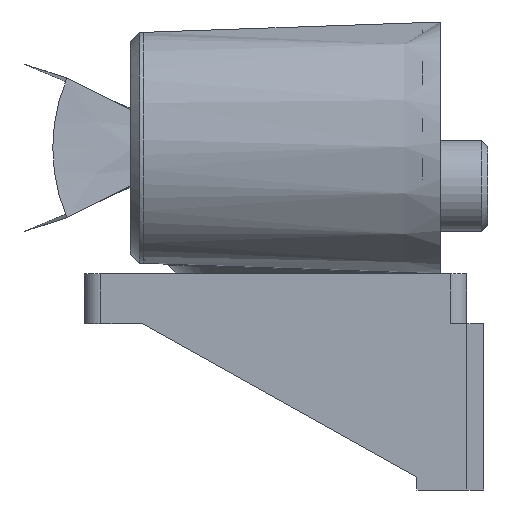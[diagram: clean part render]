
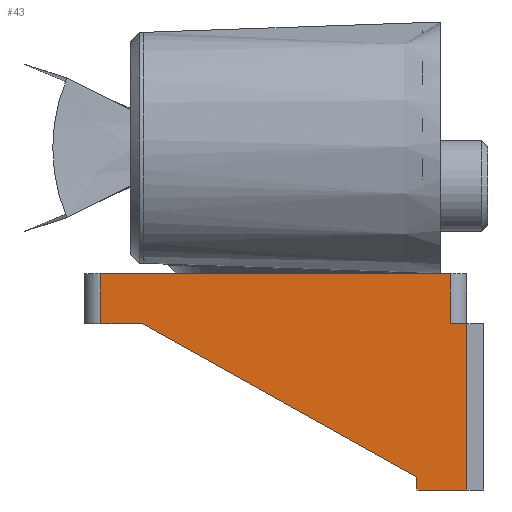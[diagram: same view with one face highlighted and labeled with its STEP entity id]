
A CAD part, left-side view. The second image highlights one B-rep face of the part: STEP entity #43.
In plain terms, the highlighted planar face has unit normal (-1, 0, 0).
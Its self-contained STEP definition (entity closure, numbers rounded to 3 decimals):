
#43 = ADVANCED_FACE('',(#44),#58,.F.);
#44 = FACE_BOUND('',#45,.F.);
#45 = EDGE_LOOP('',(#46,#81,#109,#137,#165,#193,#221,#249,#277));
#46 = ORIENTED_EDGE('',*,*,#47,.F.);
#47 = EDGE_CURVE('',#48,#50,#52,.T.);
#48 = VERTEX_POINT('',#49);
#49 = CARTESIAN_POINT('',(-32.,0.,10.));
#50 = VERTEX_POINT('',#51);
#51 = CARTESIAN_POINT('',(-32.,2.,10.));
#52 = SURFACE_CURVE('',#53,(#57,#69),.PCURVE_S1.);
#53 = LINE('',#54,#55);
#54 = CARTESIAN_POINT('',(-32.,0.,10.));
#55 = VECTOR('',#56,1.);
#56 = DIRECTION('',(0.,1.,0.));
#57 = PCURVE('',#58,#63);
#58 = PLANE('',#59);
#59 = AXIS2_PLACEMENT_3D('',#60,#61,#62);
#60 = CARTESIAN_POINT('',(-32.,0.,-10.));
#61 = DIRECTION('',(1.,0.,0.));
#62 = DIRECTION('',(0.,0.,1.));
#63 = DEFINITIONAL_REPRESENTATION('',(#64),#68);
#64 = LINE('',#65,#66);
#65 = CARTESIAN_POINT('',(20.,0.));
#66 = VECTOR('',#67,1.);
#67 = DIRECTION('',(0.,-1.));
#68 = ( GEOMETRIC_REPRESENTATION_CONTEXT(2) 
PARAMETRIC_REPRESENTATION_CONTEXT() REPRESENTATION_CONTEXT('2D SPACE',''
  ) );
#69 = PCURVE('',#70,#75);
#70 = PLANE('',#71);
#71 = AXIS2_PLACEMENT_3D('',#72,#73,#74);
#72 = CARTESIAN_POINT('',(-32.,0.,10.));
#73 = DIRECTION('',(0.,0.,1.));
#74 = DIRECTION('',(1.,0.,0.));
#75 = DEFINITIONAL_REPRESENTATION('',(#76),#80);
#76 = LINE('',#77,#78);
#77 = CARTESIAN_POINT('',(0.,0.));
#78 = VECTOR('',#79,1.);
#79 = DIRECTION('',(0.,1.));
#80 = ( GEOMETRIC_REPRESENTATION_CONTEXT(2) 
PARAMETRIC_REPRESENTATION_CONTEXT() REPRESENTATION_CONTEXT('2D SPACE',''
  ) );
#81 = ORIENTED_EDGE('',*,*,#82,.F.);
#82 = EDGE_CURVE('',#83,#48,#85,.T.);
#83 = VERTEX_POINT('',#84);
#84 = CARTESIAN_POINT('',(-32.,0.,-10.));
#85 = SURFACE_CURVE('',#86,(#90,#97),.PCURVE_S1.);
#86 = LINE('',#87,#88);
#87 = CARTESIAN_POINT('',(-32.,0.,-10.));
#88 = VECTOR('',#89,1.);
#89 = DIRECTION('',(0.,0.,1.));
#90 = PCURVE('',#58,#91);
#91 = DEFINITIONAL_REPRESENTATION('',(#92),#96);
#92 = LINE('',#93,#94);
#93 = CARTESIAN_POINT('',(0.,0.));
#94 = VECTOR('',#95,1.);
#95 = DIRECTION('',(1.,0.));
#96 = ( GEOMETRIC_REPRESENTATION_CONTEXT(2) 
PARAMETRIC_REPRESENTATION_CONTEXT() REPRESENTATION_CONTEXT('2D SPACE',''
  ) );
#97 = PCURVE('',#98,#103);
#98 = PLANE('',#99);
#99 = AXIS2_PLACEMENT_3D('',#100,#101,#102);
#100 = CARTESIAN_POINT('',(-32.,0.,-10.));
#101 = DIRECTION('',(0.,1.,0.));
#102 = DIRECTION('',(0.,0.,1.));
#103 = DEFINITIONAL_REPRESENTATION('',(#104),#108);
#104 = LINE('',#105,#106);
#105 = CARTESIAN_POINT('',(0.,0.));
#106 = VECTOR('',#107,1.);
#107 = DIRECTION('',(1.,0.));
#108 = ( GEOMETRIC_REPRESENTATION_CONTEXT(2) 
PARAMETRIC_REPRESENTATION_CONTEXT() REPRESENTATION_CONTEXT('2D SPACE',''
  ) );
#109 = ORIENTED_EDGE('',*,*,#110,.T.);
#110 = EDGE_CURVE('',#83,#111,#113,.T.);
#111 = VERTEX_POINT('',#112);
#112 = CARTESIAN_POINT('',(-32.,6.,-10.));
#113 = SURFACE_CURVE('',#114,(#118,#125),.PCURVE_S1.);
#114 = LINE('',#115,#116);
#115 = CARTESIAN_POINT('',(-32.,0.,-10.));
#116 = VECTOR('',#117,1.);
#117 = DIRECTION('',(0.,1.,0.));
#118 = PCURVE('',#58,#119);
#119 = DEFINITIONAL_REPRESENTATION('',(#120),#124);
#120 = LINE('',#121,#122);
#121 = CARTESIAN_POINT('',(0.,0.));
#122 = VECTOR('',#123,1.);
#123 = DIRECTION('',(0.,-1.));
#124 = ( GEOMETRIC_REPRESENTATION_CONTEXT(2) 
PARAMETRIC_REPRESENTATION_CONTEXT() REPRESENTATION_CONTEXT('2D SPACE',''
  ) );
#125 = PCURVE('',#126,#131);
#126 = PLANE('',#127);
#127 = AXIS2_PLACEMENT_3D('',#128,#129,#130);
#128 = CARTESIAN_POINT('',(-32.,0.,-10.));
#129 = DIRECTION('',(0.,0.,1.));
#130 = DIRECTION('',(1.,0.,0.));
#131 = DEFINITIONAL_REPRESENTATION('',(#132),#136);
#132 = LINE('',#133,#134);
#133 = CARTESIAN_POINT('',(0.,0.));
#134 = VECTOR('',#135,1.);
#135 = DIRECTION('',(0.,1.));
#136 = ( GEOMETRIC_REPRESENTATION_CONTEXT(2) 
PARAMETRIC_REPRESENTATION_CONTEXT() REPRESENTATION_CONTEXT('2D SPACE',''
  ) );
#137 = ORIENTED_EDGE('',*,*,#138,.T.);
#138 = EDGE_CURVE('',#111,#139,#141,.T.);
#139 = VERTEX_POINT('',#140);
#140 = CARTESIAN_POINT('',(-32.,6.,-8.441));
#141 = SURFACE_CURVE('',#142,(#146,#153),.PCURVE_S1.);
#142 = LINE('',#143,#144);
#143 = CARTESIAN_POINT('',(-32.,6.,-10.));
#144 = VECTOR('',#145,1.);
#145 = DIRECTION('',(0.,0.,1.));
#146 = PCURVE('',#58,#147);
#147 = DEFINITIONAL_REPRESENTATION('',(#148),#152);
#148 = LINE('',#149,#150);
#149 = CARTESIAN_POINT('',(0.,-6.));
#150 = VECTOR('',#151,1.);
#151 = DIRECTION('',(1.,0.));
#152 = ( GEOMETRIC_REPRESENTATION_CONTEXT(2) 
PARAMETRIC_REPRESENTATION_CONTEXT() REPRESENTATION_CONTEXT('2D SPACE',''
  ) );
#153 = PCURVE('',#154,#159);
#154 = PLANE('',#155);
#155 = AXIS2_PLACEMENT_3D('',#156,#157,#158);
#156 = CARTESIAN_POINT('',(-32.,6.,-10.));
#157 = DIRECTION('',(0.,1.,0.));
#158 = DIRECTION('',(0.,0.,1.));
#159 = DEFINITIONAL_REPRESENTATION('',(#160),#164);
#160 = LINE('',#161,#162);
#161 = CARTESIAN_POINT('',(0.,0.));
#162 = VECTOR('',#163,1.);
#163 = DIRECTION('',(1.,0.));
#164 = ( GEOMETRIC_REPRESENTATION_CONTEXT(2) 
PARAMETRIC_REPRESENTATION_CONTEXT() REPRESENTATION_CONTEXT('2D SPACE',''
  ) );
#165 = ORIENTED_EDGE('',*,*,#166,.T.);
#166 = EDGE_CURVE('',#139,#167,#169,.T.);
#167 = VERTEX_POINT('',#168);
#168 = CARTESIAN_POINT('',(-32.,39.,10.));
#169 = SURFACE_CURVE('',#170,(#174,#181),.PCURVE_S1.);
#170 = LINE('',#171,#172);
#171 = CARTESIAN_POINT('',(-32.,5.,-9.));
#172 = VECTOR('',#173,1.);
#173 = DIRECTION('',(0.,0.873,0.488));
#174 = PCURVE('',#58,#175);
#175 = DEFINITIONAL_REPRESENTATION('',(#176),#180);
#176 = LINE('',#177,#178);
#177 = CARTESIAN_POINT('',(1.,-5.));
#178 = VECTOR('',#179,1.);
#179 = DIRECTION('',(0.488,-0.873));
#180 = ( GEOMETRIC_REPRESENTATION_CONTEXT(2) 
PARAMETRIC_REPRESENTATION_CONTEXT() REPRESENTATION_CONTEXT('2D SPACE',''
  ) );
#181 = PCURVE('',#182,#187);
#182 = PLANE('',#183);
#183 = AXIS2_PLACEMENT_3D('',#184,#185,#186);
#184 = CARTESIAN_POINT('',(-32.,5.,-9.));
#185 = DIRECTION('',(0.,-0.488,0.873));
#186 = DIRECTION('',(0.,0.873,0.488));
#187 = DEFINITIONAL_REPRESENTATION('',(#188),#192);
#188 = LINE('',#189,#190);
#189 = CARTESIAN_POINT('',(0.,0.));
#190 = VECTOR('',#191,1.);
#191 = DIRECTION('',(1.,0.));
#192 = ( GEOMETRIC_REPRESENTATION_CONTEXT(2) 
PARAMETRIC_REPRESENTATION_CONTEXT() REPRESENTATION_CONTEXT('2D SPACE',''
  ) );
#193 = ORIENTED_EDGE('',*,*,#194,.T.);
#194 = EDGE_CURVE('',#167,#195,#197,.T.);
#195 = VERTEX_POINT('',#196);
#196 = CARTESIAN_POINT('',(-32.,44.,10.));
#197 = SURFACE_CURVE('',#198,(#202,#209),.PCURVE_S1.);
#198 = LINE('',#199,#200);
#199 = CARTESIAN_POINT('',(-32.,0.,10.));
#200 = VECTOR('',#201,1.);
#201 = DIRECTION('',(0.,1.,0.));
#202 = PCURVE('',#58,#203);
#203 = DEFINITIONAL_REPRESENTATION('',(#204),#208);
#204 = LINE('',#205,#206);
#205 = CARTESIAN_POINT('',(20.,0.));
#206 = VECTOR('',#207,1.);
#207 = DIRECTION('',(0.,-1.));
#208 = ( GEOMETRIC_REPRESENTATION_CONTEXT(2) 
PARAMETRIC_REPRESENTATION_CONTEXT() REPRESENTATION_CONTEXT('2D SPACE',''
  ) );
#209 = PCURVE('',#210,#215);
#210 = PLANE('',#211);
#211 = AXIS2_PLACEMENT_3D('',#212,#213,#214);
#212 = CARTESIAN_POINT('',(-32.,0.,10.));
#213 = DIRECTION('',(0.,0.,1.));
#214 = DIRECTION('',(1.,0.,0.));
#215 = DEFINITIONAL_REPRESENTATION('',(#216),#220);
#216 = LINE('',#217,#218);
#217 = CARTESIAN_POINT('',(0.,0.));
#218 = VECTOR('',#219,1.);
#219 = DIRECTION('',(0.,1.));
#220 = ( GEOMETRIC_REPRESENTATION_CONTEXT(2) 
PARAMETRIC_REPRESENTATION_CONTEXT() REPRESENTATION_CONTEXT('2D SPACE',''
  ) );
#221 = ORIENTED_EDGE('',*,*,#222,.T.);
#222 = EDGE_CURVE('',#195,#223,#225,.T.);
#223 = VERTEX_POINT('',#224);
#224 = CARTESIAN_POINT('',(-32.,44.,16.));
#225 = SURFACE_CURVE('',#226,(#230,#237),.PCURVE_S1.);
#226 = LINE('',#227,#228);
#227 = CARTESIAN_POINT('',(-32.,44.,10.));
#228 = VECTOR('',#229,1.);
#229 = DIRECTION('',(0.,0.,1.));
#230 = PCURVE('',#58,#231);
#231 = DEFINITIONAL_REPRESENTATION('',(#232),#236);
#232 = LINE('',#233,#234);
#233 = CARTESIAN_POINT('',(20.,-44.));
#234 = VECTOR('',#235,1.);
#235 = DIRECTION('',(1.,0.));
#236 = ( GEOMETRIC_REPRESENTATION_CONTEXT(2) 
PARAMETRIC_REPRESENTATION_CONTEXT() REPRESENTATION_CONTEXT('2D SPACE',''
  ) );
#237 = PCURVE('',#238,#243);
#238 = CYLINDRICAL_SURFACE('',#239,2.);
#239 = AXIS2_PLACEMENT_3D('',#240,#241,#242);
#240 = CARTESIAN_POINT('',(-30.,44.,10.));
#241 = DIRECTION('',(0.,0.,1.));
#242 = DIRECTION('',(-1.,-0.,0.));
#243 = DEFINITIONAL_REPRESENTATION('',(#244),#248);
#244 = LINE('',#245,#246);
#245 = CARTESIAN_POINT('',(-0.,0.));
#246 = VECTOR('',#247,1.);
#247 = DIRECTION('',(-0.,1.));
#248 = ( GEOMETRIC_REPRESENTATION_CONTEXT(2) 
PARAMETRIC_REPRESENTATION_CONTEXT() REPRESENTATION_CONTEXT('2D SPACE',''
  ) );
#249 = ORIENTED_EDGE('',*,*,#250,.F.);
#250 = EDGE_CURVE('',#251,#223,#253,.T.);
#251 = VERTEX_POINT('',#252);
#252 = CARTESIAN_POINT('',(-32.,2.,16.));
#253 = SURFACE_CURVE('',#254,(#258,#265),.PCURVE_S1.);
#254 = LINE('',#255,#256);
#255 = CARTESIAN_POINT('',(-32.,0.,16.));
#256 = VECTOR('',#257,1.);
#257 = DIRECTION('',(0.,1.,0.));
#258 = PCURVE('',#58,#259);
#259 = DEFINITIONAL_REPRESENTATION('',(#260),#264);
#260 = LINE('',#261,#262);
#261 = CARTESIAN_POINT('',(26.,0.));
#262 = VECTOR('',#263,1.);
#263 = DIRECTION('',(0.,-1.));
#264 = ( GEOMETRIC_REPRESENTATION_CONTEXT(2) 
PARAMETRIC_REPRESENTATION_CONTEXT() REPRESENTATION_CONTEXT('2D SPACE',''
  ) );
#265 = PCURVE('',#266,#271);
#266 = PLANE('',#267);
#267 = AXIS2_PLACEMENT_3D('',#268,#269,#270);
#268 = CARTESIAN_POINT('',(-32.,0.,16.));
#269 = DIRECTION('',(0.,0.,1.));
#270 = DIRECTION('',(1.,0.,0.));
#271 = DEFINITIONAL_REPRESENTATION('',(#272),#276);
#272 = LINE('',#273,#274);
#273 = CARTESIAN_POINT('',(0.,0.));
#274 = VECTOR('',#275,1.);
#275 = DIRECTION('',(0.,1.));
#276 = ( GEOMETRIC_REPRESENTATION_CONTEXT(2) 
PARAMETRIC_REPRESENTATION_CONTEXT() REPRESENTATION_CONTEXT('2D SPACE',''
  ) );
#277 = ORIENTED_EDGE('',*,*,#278,.F.);
#278 = EDGE_CURVE('',#50,#251,#279,.T.);
#279 = SURFACE_CURVE('',#280,(#284,#291),.PCURVE_S1.);
#280 = LINE('',#281,#282);
#281 = CARTESIAN_POINT('',(-32.,2.,10.));
#282 = VECTOR('',#283,1.);
#283 = DIRECTION('',(0.,0.,1.));
#284 = PCURVE('',#58,#285);
#285 = DEFINITIONAL_REPRESENTATION('',(#286),#290);
#286 = LINE('',#287,#288);
#287 = CARTESIAN_POINT('',(20.,-2.));
#288 = VECTOR('',#289,1.);
#289 = DIRECTION('',(1.,0.));
#290 = ( GEOMETRIC_REPRESENTATION_CONTEXT(2) 
PARAMETRIC_REPRESENTATION_CONTEXT() REPRESENTATION_CONTEXT('2D SPACE',''
  ) );
#291 = PCURVE('',#292,#297);
#292 = CYLINDRICAL_SURFACE('',#293,2.);
#293 = AXIS2_PLACEMENT_3D('',#294,#295,#296);
#294 = CARTESIAN_POINT('',(-30.,2.,10.));
#295 = DIRECTION('',(0.,0.,1.));
#296 = DIRECTION('',(-1.,-0.,0.));
#297 = DEFINITIONAL_REPRESENTATION('',(#298),#302);
#298 = LINE('',#299,#300);
#299 = CARTESIAN_POINT('',(0.,0.));
#300 = VECTOR('',#301,1.);
#301 = DIRECTION('',(0.,1.));
#302 = ( GEOMETRIC_REPRESENTATION_CONTEXT(2) 
PARAMETRIC_REPRESENTATION_CONTEXT() REPRESENTATION_CONTEXT('2D SPACE',''
  ) );
